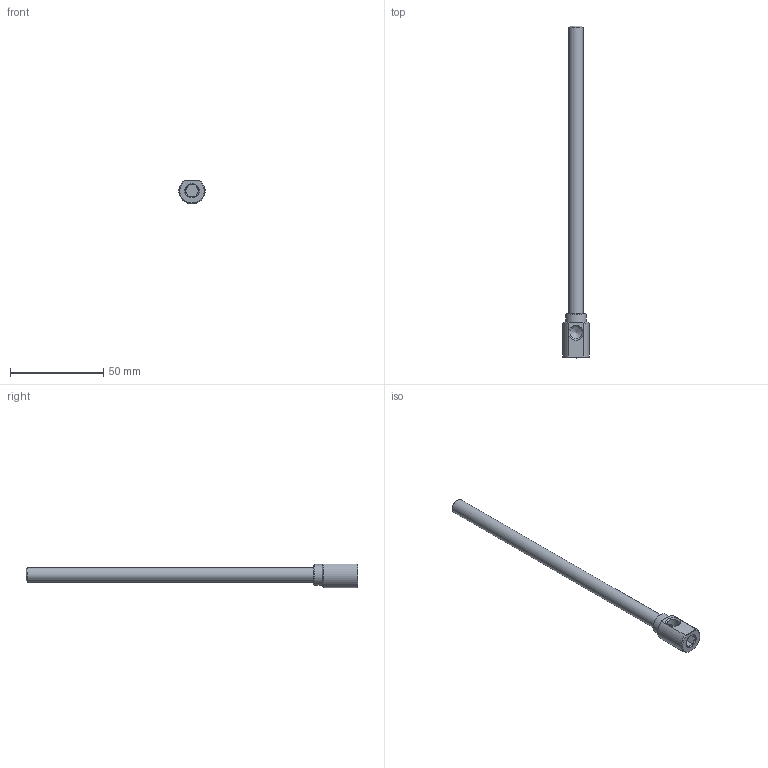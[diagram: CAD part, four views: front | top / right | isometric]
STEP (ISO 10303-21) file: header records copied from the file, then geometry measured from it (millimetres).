
FILE_DESCRIPTION(/* description */ (''),/* implementation_level */ '2;1');
FILE_NAME(/* name */ 'C:/Users/drich/Desktop/EKL16 X 7 v2.step',/* time_stamp */ '2019-11-18T14:36:40-06:00',/* author */ (''),/* organization */ (''),/* preprocessor_version */ 'ST-DEVELOPER v18',/* originating_system */ 'Autodesk Translation Framework v8.12.0.6',/* authorisation */ '');
FILE_SCHEMA (('AUTOMOTIVE_DESIGN { 1 0 10303 214 3 1 1 }'));
Length unit declared in the file: inch
Products named in the file (2): EKL16 X 7; EKL16 X 7_1
Assembly tree (1 placements, depth 2):
  EKL16 X 7
    EKL16 X 7_1
Bounding box: 13.97 x 177.8 x 12.7 mm (x, y, z)
Volume: 7139.5 mm3; surface area: 7796.4 mm2
Topology: 1 solids, 1 shells, 29 faces, 80 edges, 56 vertices
Faces by surface type: plane 15, cone 8, cylinder 6
Full cylindrical faces by diameter (mm): 4.75 x1, 6.566 x1, 7.62 x1, 7.828 x1, 11.1 x1
Entity records: 1016 total; most frequent: CARTESIAN_POINT 241, ORIENTED_EDGE 158, DIRECTION 148, EDGE_CURVE 79, AXIS2_PLACEMENT_3D 59, VERTEX_POINT 56, EDGE_LOOP 35, LINE 30
